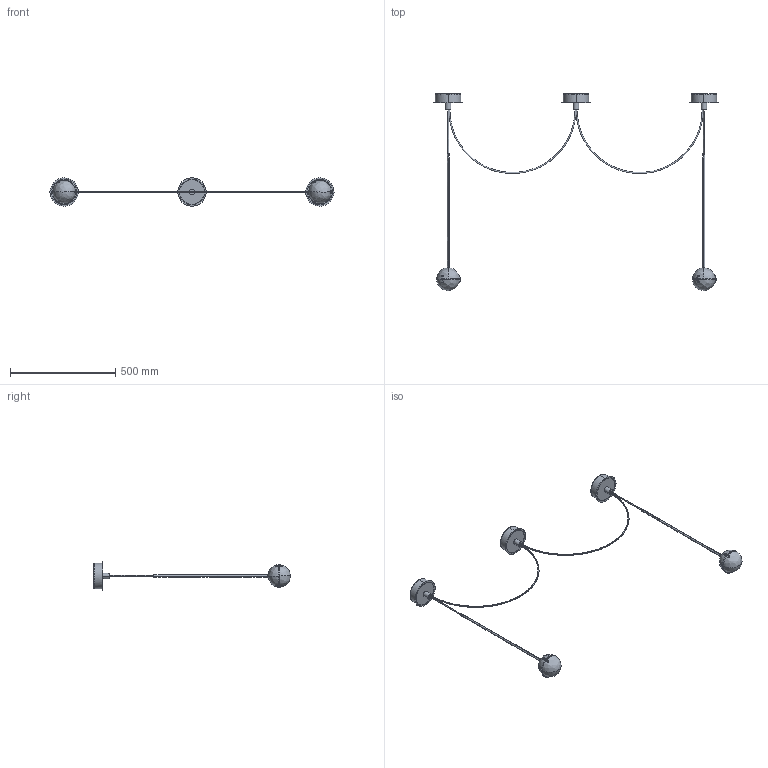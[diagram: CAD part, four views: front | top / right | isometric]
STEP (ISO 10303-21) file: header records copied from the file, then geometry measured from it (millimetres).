
FILE_DESCRIPTION(/* description */ (''),/* implementation_level */ '2;1');
FILE_NAME(/* name */ 'CINI&N~3',/* time_stamp */ '2016-09-01T17:45:51+02:00',/* author */ (''),/* organization */ (''),/* preprocessor_version */ 'ST-DEVELOPER v15',/* originating_system */ '',/* authorisation */ '');
FILE_SCHEMA (('CONFIG_CONTROL_DESIGN'));
Length unit declared in the file: millimetre
Products named in the file (1): Document
Bounding box: 1353 x 938.78 x 134.85 mm (x, y, z)
Surface area: 297186.6 mm2 (no closed solid volume)
Topology: 0 solids, 1 shells, 404 faces, 1042 edges, 646 vertices
Faces by surface type: bspline 282, plane 122
Entity records: 23726 total; most frequent: CARTESIAN_POINT 17796, ORIENTED_EDGE 2008, EDGE_CURVE 1022, VERTEX_POINT 646, B_SPLINE_CURVE_WITH_KNOTS 472, EDGE_LOOP 448, ADVANCED_FACE 404, FACE_OUTER_BOUND 404
